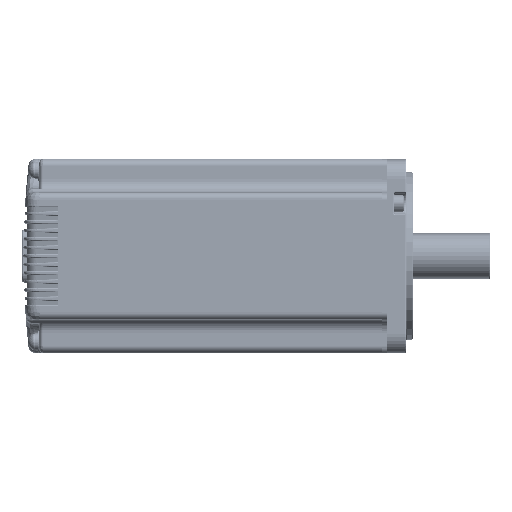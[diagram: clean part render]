
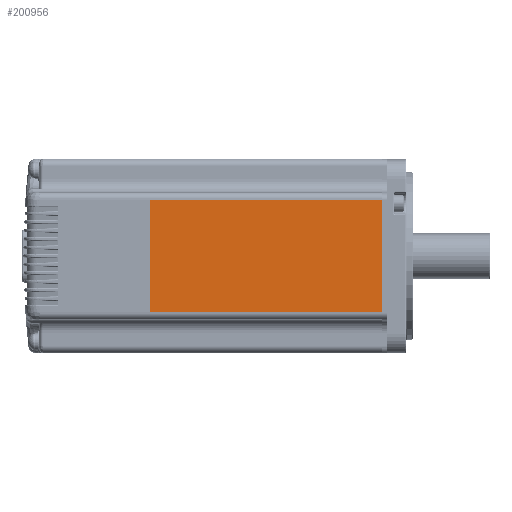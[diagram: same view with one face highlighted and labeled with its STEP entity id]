
A CAD part, front view. The second image highlights one B-rep face of the part: STEP entity #200956.
In plain terms, the highlighted planar face has unit normal (0, -1, 0).
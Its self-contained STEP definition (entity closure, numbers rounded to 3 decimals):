
#192985=DIRECTION('',(-1.,0.,0.));
#192986=VECTOR('',#192985,47.);
#192987=CARTESIAN_POINT('',(217.917,0.,10.));
#192988=LINE('',#192987,#192986);
#195913=DIRECTION('',(0.,0.,-1.));
#195914=VECTOR('',#195913,97.);
#195915=CARTESIAN_POINT('',(217.917,0.,107.));
#195916=LINE('',#195915,#195914);
#195920=DIRECTION('',(-1.,0.,0.));
#195921=VECTOR('',#195920,47.);
#195922=CARTESIAN_POINT('',(217.917,0.,107.));
#195923=LINE('',#195922,#195921);
#195927=DIRECTION('',(0.,0.,1.));
#195928=VECTOR('',#195927,97.);
#195929=CARTESIAN_POINT('',(170.917,0.,10.));
#195930=LINE('',#195929,#195928);
#197421=CARTESIAN_POINT('',(217.917,0.,10.));
#197422=CARTESIAN_POINT('',(170.917,0.,10.));
#197423=VERTEX_POINT('',#197421);
#197424=VERTEX_POINT('',#197422);
#197689=CARTESIAN_POINT('',(217.917,0.,107.));
#197690=VERTEX_POINT('',#197689);
#197857=CARTESIAN_POINT('',(170.917,0.,107.));
#197858=VERTEX_POINT('',#197857);
#200944=CARTESIAN_POINT('',(170.917,0.,10.));
#200945=DIRECTION('',(0.,-1.,0.));
#200946=DIRECTION('',(0.,0.,-1.));
#200947=AXIS2_PLACEMENT_3D('',#200944,#200945,#200946);
#200948=PLANE('',#200947);
#200949=ORIENTED_EDGE('',*,*,#198698,.F.);
#200950=ORIENTED_EDGE('',*,*,#200932,.T.);
#200951=ORIENTED_EDGE('',*,*,#198059,.T.);
#200953=ORIENTED_EDGE('',*,*,#200952,.T.);
#200954=EDGE_LOOP('',(#200949,#200950,#200951,#200953));
#200955=FACE_OUTER_BOUND('',#200954,.F.);
#200956=ADVANCED_FACE('',(#200955),#200948,.T.);
#198059=EDGE_CURVE('',#197423,#197424,#192988,.T.);
#198698=EDGE_CURVE('',#197690,#197858,#195923,.T.);
#200932=EDGE_CURVE('',#197690,#197423,#195916,.T.);
#200952=EDGE_CURVE('',#197424,#197858,#195930,.T.);
